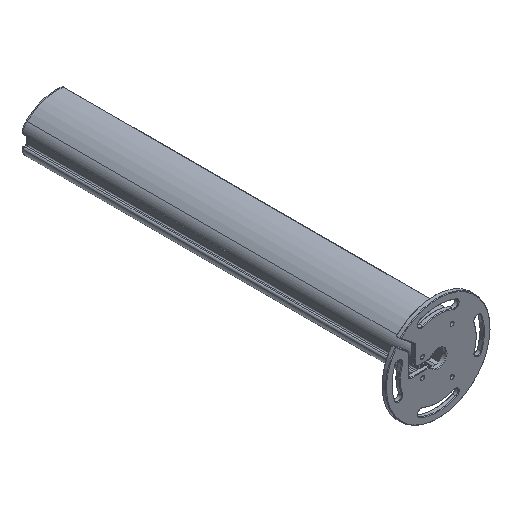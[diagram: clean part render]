
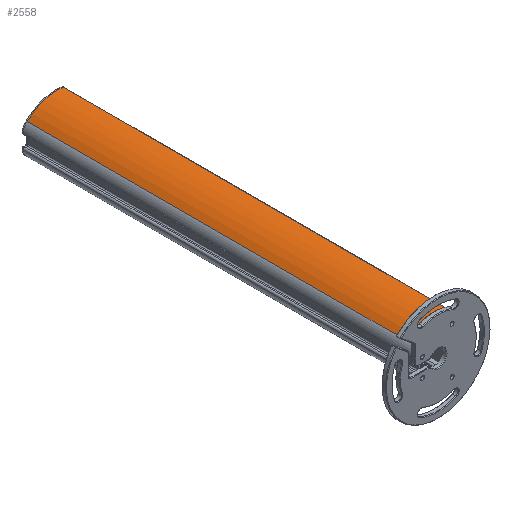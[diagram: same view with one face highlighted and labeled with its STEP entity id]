
A CAD part, isometric view. The second image highlights one B-rep face of the part: STEP entity #2558.
In plain terms, the highlighted cylindrical face has radius 79.059 mm (diameter 158.118 mm), a partial arc.
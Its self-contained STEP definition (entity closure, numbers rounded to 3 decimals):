
#72=CARTESIAN_POINT('',(24.886,-355.,-29.268));
#73=DIRECTION('',(0.,1.,0.));
#74=DIRECTION('',(-0.694,0.,0.72));
#75=AXIS2_PLACEMENT_3D('',#72,#73,#74);
#646=DIRECTION('',(0.,1.,0.));
#647=VECTOR('',#646,710.);
#648=CARTESIAN_POINT('',(35.448,-355.,49.083));
#649=LINE('',#648,#647);
#650=DIRECTION('',(0.,1.,0.));
#651=VECTOR('',#650,710.);
#652=CARTESIAN_POINT('',(-30.018,-355.,27.617));
#653=LINE('',#652,#651);
#1015=CARTESIAN_POINT('',(24.886,355.,-29.268));
#1016=DIRECTION('',(0.,1.,0.));
#1017=DIRECTION('',(-0.694,0.,0.72));
#1018=AXIS2_PLACEMENT_3D('',#1015,#1016,#1017);
#1116=CARTESIAN_POINT('',(-30.018,-355.,27.617));
#1117=VERTEX_POINT('',#1116);
#1118=CARTESIAN_POINT('',(35.448,-355.,49.083));
#1119=VERTEX_POINT('',#1118);
#1282=CARTESIAN_POINT('',(-30.018,355.,27.617));
#1283=VERTEX_POINT('',#1282);
#1284=CARTESIAN_POINT('',(35.448,355.,49.083));
#1285=VERTEX_POINT('',#1284);
#2545=CARTESIAN_POINT('',(24.886,-355.,-29.268));
#2546=DIRECTION('',(0.,1.,0.));
#2547=DIRECTION('',(1.,0.,0.));
#2548=AXIS2_PLACEMENT_3D('',#2545,#2546,#2547);
#2549=CYLINDRICAL_SURFACE('',#2548,79.059);
#2550=ORIENTED_EDGE('',*,*,#1453,.F.);
#2552=ORIENTED_EDGE('',*,*,#2551,.T.);
#2554=ORIENTED_EDGE('',*,*,#2553,.T.);
#2555=ORIENTED_EDGE('',*,*,#2537,.F.);
#2556=EDGE_LOOP('',(#2550,#2552,#2554,#2555));
#2557=FACE_OUTER_BOUND('',#2556,.F.);
#2558=ADVANCED_FACE('',(#2557),#2549,.T.);
#76=CIRCLE('',#75,79.059);
#1019=CIRCLE('',#1018,79.059);
#1453=EDGE_CURVE('',#1117,#1119,#76,.T.);
#2537=EDGE_CURVE('',#1119,#1285,#649,.T.);
#2551=EDGE_CURVE('',#1117,#1283,#653,.T.);
#2553=EDGE_CURVE('',#1283,#1285,#1019,.T.);
